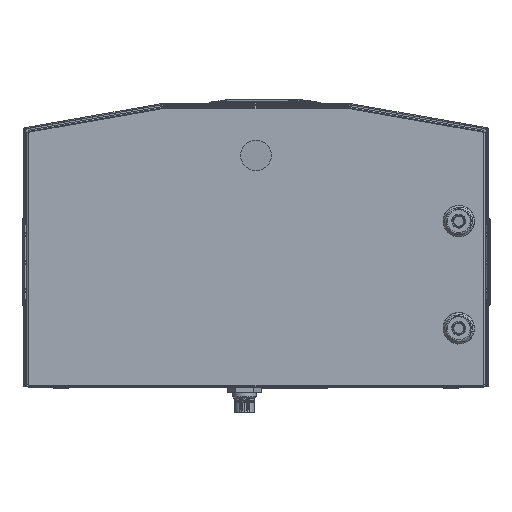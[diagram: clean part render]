
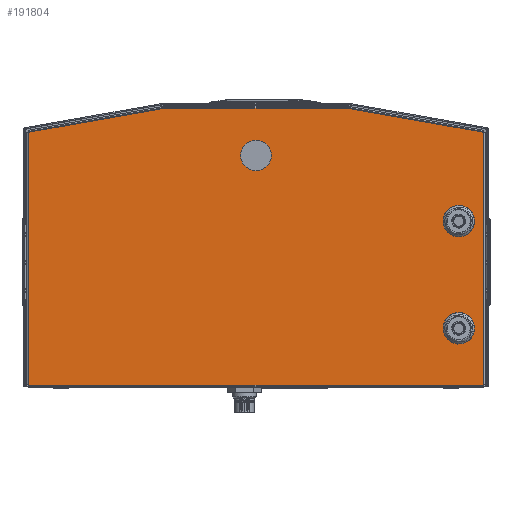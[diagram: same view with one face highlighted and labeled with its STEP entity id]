
A CAD part, front view. The second image highlights one B-rep face of the part: STEP entity #191804.
In plain terms, the highlighted planar face has unit normal (0, -1, 0).
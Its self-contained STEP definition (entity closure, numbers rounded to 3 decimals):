
#900 = CARTESIAN_POINT ( 'NONE',  ( 218.547, -826.422, 177.758 ) ) ;
#5526 = DIRECTION ( 'NONE',  ( 0., -1., 0. ) ) ;
#6486 = CARTESIAN_POINT ( 'NONE',  ( 98.607, -826.422, 299.368 ) ) ;
#7435 = CARTESIAN_POINT ( 'NONE',  ( 218.547, -826.422, 49.543 ) ) ;
#7512 = VECTOR ( 'NONE', #39400, 1000. ) ;
#7914 = CIRCLE ( 'NONE', #68510, 12.7 ) ;
#9876 = VERTEX_POINT ( 'NONE', #130293 ) ;
#10183 = CARTESIAN_POINT ( 'NONE',  ( -247., -826.422, 301.578 ) ) ;
#10605 = ORIENTED_EDGE ( 'NONE', *, *, #36854, .T. ) ;
#14782 = EDGE_CURVE ( 'NONE', #9876, #45575, #133630, .T. ) ;
#17041 = DIRECTION ( 'NONE',  ( 0., 0., -1. ) ) ;
#18133 = DIRECTION ( 'NONE',  ( 0., 1., 0. ) ) ;
#25509 = ORIENTED_EDGE ( 'NONE', *, *, #77199, .F. ) ;
#27608 = CIRCLE ( 'NONE', #48235, 12.7 ) ;
#27772 = AXIS2_PLACEMENT_3D ( 'NONE', #10183, #58573, #170795 ) ;
#34137 = VECTOR ( 'NONE', #207342, 1000. ) ;
#36854 = EDGE_CURVE ( 'NONE', #130292, #140927, #40110, .T. ) ;
#38927 = AXIS2_PLACEMENT_3D ( 'NONE', #114065, #18133, #130260 ) ;
#39400 = DIRECTION ( 'NONE',  ( -1., 0., 0. ) ) ;
#40110 = LINE ( 'NONE', #6486, #7512 ) ;
#42100 = LINE ( 'NONE', #196054, #207763 ) ;
#42478 = PLANE ( 'NONE',  #27772 ) ;
#45575 = VERTEX_POINT ( 'NONE', #55725 ) ;
#47859 = EDGE_CURVE ( 'NONE', #185772, #130292, #42100, .T. ) ;
#48235 = AXIS2_PLACEMENT_3D ( 'NONE', #181988, #85830, #198140 ) ;
#50303 = ORIENTED_EDGE ( 'NONE', *, *, #14782, .T. ) ;
#50678 = VERTEX_POINT ( 'NONE', #155428 ) ;
#55469 = CIRCLE ( 'NONE', #99173, 16.51 ) ;
#55725 = CARTESIAN_POINT ( 'NONE',  ( 0., -826.422, 232.068 ) ) ;
#56071 = EDGE_LOOP ( 'NONE', ( #50303, #60591 ) ) ;
#58573 = DIRECTION ( 'NONE',  ( 0., 1., 0. ) ) ;
#60414 = EDGE_CURVE ( 'NONE', #181045, #151974, #7914, .T. ) ;
#60563 = EDGE_CURVE ( 'NONE', #108689, #139572, #185973, .T. ) ;
#60591 = ORIENTED_EDGE ( 'NONE', *, *, #76366, .T. ) ;
#62860 = CARTESIAN_POINT ( 'NONE',  ( -244.79, -826.422, 273.6 ) ) ;
#65218 = EDGE_LOOP ( 'NONE', ( #143801, #25509 ) ) ;
#67246 = CARTESIAN_POINT ( 'NONE',  ( 0., -826.422, 248.578 ) ) ;
#68480 = EDGE_CURVE ( 'NONE', #50678, #121234, #204783, .T. ) ;
#68510 = AXIS2_PLACEMENT_3D ( 'NONE', #101501, #5526, #117604 ) ;
#73101 = VECTOR ( 'NONE', #192025, 1000. ) ;
#73419 = CARTESIAN_POINT ( 'NONE',  ( -98.607, -826.422, 299.368 ) ) ;
#74091 = DIRECTION ( 'NONE',  ( 0., -1., 0. ) ) ;
#76366 = EDGE_CURVE ( 'NONE', #45575, #9876, #55469, .T. ) ;
#77199 = EDGE_CURVE ( 'NONE', #151974, #181045, #27608, .T. ) ;
#77845 = CARTESIAN_POINT ( 'NONE',  ( 244.79, -826.422, 0.787 ) ) ;
#83154 = LINE ( 'NONE', #86612, #206171 ) ;
#83298 = DIRECTION ( 'NONE',  ( 0., 0., 1. ) ) ;
#85830 = DIRECTION ( 'NONE',  ( 0., -1., 0. ) ) ;
#86612 = CARTESIAN_POINT ( 'NONE',  ( -98.607, -826.422, 299.368 ) ) ;
#88149 = ORIENTED_EDGE ( 'NONE', *, *, #134460, .T. ) ;
#95089 = CIRCLE ( 'NONE', #199078, 12.7 ) ;
#98418 = VECTOR ( 'NONE', #185216, 1000. ) ;
#99173 = AXIS2_PLACEMENT_3D ( 'NONE', #67246, #179444, #83298 ) ;
#101501 = CARTESIAN_POINT ( 'NONE',  ( 218.547, -826.422, 62.243 ) ) ;
#102696 = DIRECTION ( 'NONE',  ( -0.985, 0., -0.174 ) ) ;
#103449 = CARTESIAN_POINT ( 'NONE',  ( -244.79, -826.422, 0.787 ) ) ;
#103737 = FACE_BOUND ( 'NONE', #56071, .T. ) ;
#108689 = VERTEX_POINT ( 'NONE', #147701 ) ;
#108688 = FACE_BOUND ( 'NONE', #65218, .T. ) ;
#112978 = DIRECTION ( 'NONE',  ( 0., -1., 0. ) ) ;
#114065 = CARTESIAN_POINT ( 'NONE',  ( 0., -826.422, 248.578 ) ) ;
#115682 = CARTESIAN_POINT ( 'NONE',  ( 218.547, -826.422, 74.943 ) ) ;
#115946 = DIRECTION ( 'NONE',  ( -0.985, 0., 0.174 ) ) ;
#117604 = DIRECTION ( 'NONE',  ( 0., 0., -1. ) ) ;
#118319 = ORIENTED_EDGE ( 'NONE', *, *, #133289, .F. ) ;
#121234 = VERTEX_POINT ( 'NONE', #103449 ) ;
#125153 = CARTESIAN_POINT ( 'NONE',  ( 218.547, -826.422, 165.058 ) ) ;
#130260 = DIRECTION ( 'NONE',  ( 0., 0., 1. ) ) ;
#130292 = VERTEX_POINT ( 'NONE', #162840 ) ;
#130293 = CARTESIAN_POINT ( 'NONE',  ( 0., -826.422, 265.088 ) ) ;
#133289 = EDGE_CURVE ( 'NONE', #146503, #121234, #183824, .T. ) ;
#133630 = CIRCLE ( 'NONE', #38927, 16.51 ) ;
#134460 = EDGE_CURVE ( 'NONE', #140927, #50678, #83154, .T. ) ;
#139572 = VERTEX_POINT ( 'NONE', #125153 ) ;
#140927 = VERTEX_POINT ( 'NONE', #73419 ) ;
#143801 = ORIENTED_EDGE ( 'NONE', *, *, #60414, .F. ) ;
#144131 = EDGE_LOOP ( 'NONE', ( #169078, #149314 ) ) ;
#145162 = CARTESIAN_POINT ( 'NONE',  ( 244.79, -826.422, 273.592 ) ) ;
#146463 = FACE_BOUND ( 'NONE', #144131, .T. ) ;
#146503 = VERTEX_POINT ( 'NONE', #77845 ) ;
#147701 = CARTESIAN_POINT ( 'NONE',  ( 218.547, -826.422, 190.458 ) ) ;
#149314 = ORIENTED_EDGE ( 'NONE', *, *, #60563, .F. ) ;
#151974 = VERTEX_POINT ( 'NONE', #115682 ) ;
#154536 = EDGE_LOOP ( 'NONE', ( #183163, #174313, #10605, #88149, #178055, #118319 ) ) ;
#155428 = CARTESIAN_POINT ( 'NONE',  ( -244.79, -826.422, 273.592 ) ) ;
#162840 = CARTESIAN_POINT ( 'NONE',  ( 98.607, -826.422, 299.368 ) ) ;
#169078 = ORIENTED_EDGE ( 'NONE', *, *, #197280, .F. ) ;
#169107 = CARTESIAN_POINT ( 'NONE',  ( -247., -826.422, 0.787 ) ) ;
#170204 = CARTESIAN_POINT ( 'NONE',  ( 218.547, -826.422, 177.758 ) ) ;
#170795 = DIRECTION ( 'NONE',  ( 0., 0., 1. ) ) ;
#174313 = ORIENTED_EDGE ( 'NONE', *, *, #47859, .T. ) ;
#175851 = CARTESIAN_POINT ( 'NONE',  ( 244.79, -826.422, 0.787 ) ) ;
#178055 = ORIENTED_EDGE ( 'NONE', *, *, #68480, .T. ) ;
#179444 = DIRECTION ( 'NONE',  ( 0., 1., 0. ) ) ;
#181045 = VERTEX_POINT ( 'NONE', #7435 ) ;
#181988 = CARTESIAN_POINT ( 'NONE',  ( 218.547, -826.422, 62.243 ) ) ;
#183163 = ORIENTED_EDGE ( 'NONE', *, *, #187949, .T. ) ;
#183824 = LINE ( 'NONE', #169107, #98418 ) ;
#185216 = DIRECTION ( 'NONE',  ( -1., 0., 0. ) ) ;
#185772 = VERTEX_POINT ( 'NONE', #145162 ) ;
#185973 = CIRCLE ( 'NONE', #197572, 12.7 ) ;
#186303 = DIRECTION ( 'NONE',  ( 0., 0., -1. ) ) ;
#187949 = EDGE_CURVE ( 'NONE', #146503, #185772, #201131, .T. ) ;
#191804 = ADVANCED_FACE ( 'NONE', ( #103737, #146463, #108688, #194218 ), #42478, .F. ) ;
#192025 = DIRECTION ( 'NONE',  ( 0., 0., 1. ) ) ;
#194218 = FACE_OUTER_BOUND ( 'NONE', #154536, .T. ) ;
#196054 = CARTESIAN_POINT ( 'NONE',  ( 244.798, -826.422, 273.59 ) ) ;
#197280 = EDGE_CURVE ( 'NONE', #139572, #108689, #95089, .T. ) ;
#197572 = AXIS2_PLACEMENT_3D ( 'NONE', #170204, #74091, #186303 ) ;
#198140 = DIRECTION ( 'NONE',  ( 0., 0., -1. ) ) ;
#199078 = AXIS2_PLACEMENT_3D ( 'NONE', #900, #112978, #17041 ) ;
#201131 = LINE ( 'NONE', #175851, #73101 ) ;
#204783 = LINE ( 'NONE', #62860, #34137 ) ;
#206171 = VECTOR ( 'NONE', #102696, 1000. ) ;
#207342 = DIRECTION ( 'NONE',  ( 0., 0., -1. ) ) ;
#207763 = VECTOR ( 'NONE', #115946, 1000. ) ;
